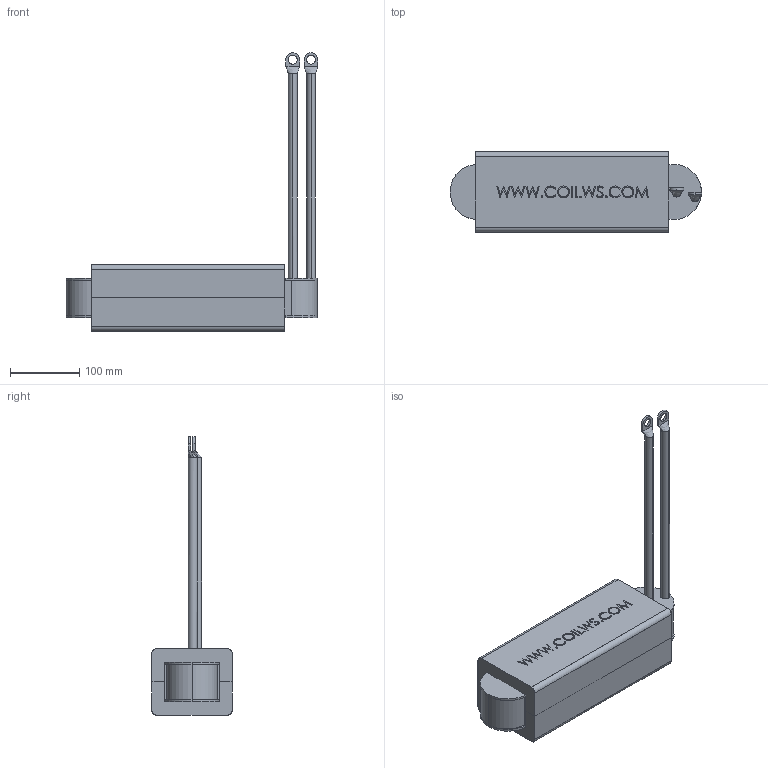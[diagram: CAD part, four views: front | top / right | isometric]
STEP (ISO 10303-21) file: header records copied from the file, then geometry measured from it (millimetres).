
FILE_DESCRIPTION (( 'STEP AP214' ), '1' );
FILE_NAME ('HCS-801M-350A.STEP', '2022-03-01T12:04:51', ( '' ), ( '' ), 'SwSTEP 2.0', 'SolidWorks 2015', '' );
FILE_SCHEMA (( 'AUTOMOTIVE_DESIGN' ));
Length unit declared in the file: millimetre
Products named in the file (6): core; Part32; WRAPPER; HCS-801M-350A; Part31; Part27
Assembly tree (5 placements, depth 2):
  HCS-801M-350A
    core
    Part27
    Part31
    Part32
    WRAPPER
Bounding box: 364.4 x 116.4 x 402.8 mm (x, y, z)
Volume: 3026371.3 mm3; surface area: 1350067 mm2
Topology: 13 solids, 13 shells, 440 faces, 1054 edges, 656 vertices
Faces by surface type: plane 289, cylinder 86, bspline 65
Entity records: 18397 total; most frequent: CARTESIAN_POINT 6153, ORIENTED_EDGE 2108, DIRECTION 1878, EDGE_CURVE 1054, VECTOR 760, LINE 760, VERTEX_POINT 656, AXIS2_PLACEMENT_3D 559
